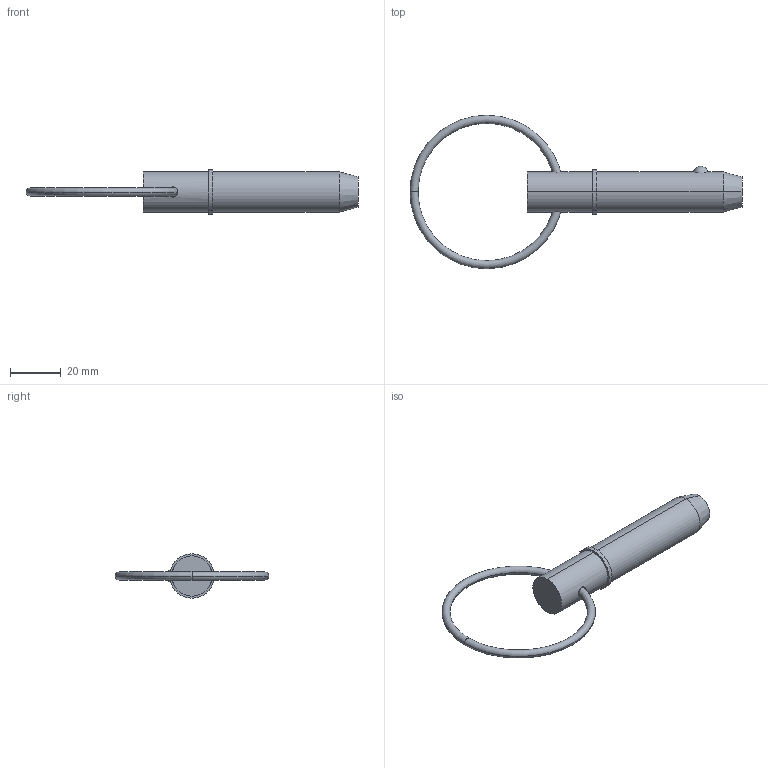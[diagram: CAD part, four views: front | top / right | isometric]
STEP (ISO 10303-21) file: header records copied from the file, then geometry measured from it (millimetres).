
FILE_DESCRIPTION (( 'STEP AP203' ), '1' );
FILE_NAME ('33014.W6215.step', '2024-11-04T08:33:19', ( '' ), ( '' ), 'SwSTEP 2.0', 'SolidWorks 2019', '' );
FILE_SCHEMA (( 'CONFIG_CONTROL_DESIGN' ));
Length unit declared in the file: millimetre
Products named in the file (3): Part2_33014.W6215; 33014.W6215; Part1_33014.W6215
Assembly tree (2 placements, depth 2):
  33014.W6215
    Part1_33014.W6215
    Part2_33014.W6215
Bounding box: 130.48 x 60.33 x 17.47 mm (x, y, z)
Volume: 17718.4 mm3; surface area: 6560.4 mm2
Topology: 2 solids, 2 shells, 22 faces, 43 edges, 26 vertices
Faces by surface type: torus 8, cylinder 6, plane 4, sphere 2, cone 2
Entity records: 1047 total; most frequent: CARTESIAN_POINT 270, DIRECTION 120, ORIENTED_EDGE 86, AXIS2_PLACEMENT_3D 56, EDGE_CURVE 43, CIRCLE 29, EDGE_LOOP 27, VERTEX_POINT 26
